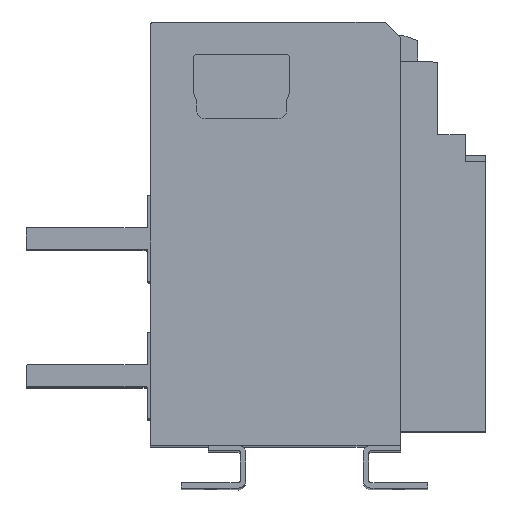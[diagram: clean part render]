
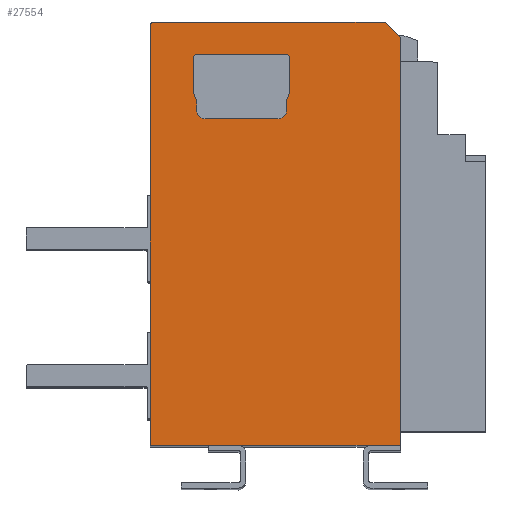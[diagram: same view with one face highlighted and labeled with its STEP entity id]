
A CAD part, top view. The second image highlights one B-rep face of the part: STEP entity #27554.
In plain terms, the highlighted planar face has unit normal (0, 0, 1).
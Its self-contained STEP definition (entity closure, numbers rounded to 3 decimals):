
#515 = CARTESIAN_POINT ( 'NONE',  ( 4501.86, 449.471, 1019. ) ) ;
#942 = ORIENTED_EDGE ( 'NONE', *, *, #33081, .F. ) ;
#1032 = LINE ( 'NONE', #40360, #1578 ) ;
#1041 = ORIENTED_EDGE ( 'NONE', *, *, #16047, .F. ) ;
#1311 = VECTOR ( 'NONE', #17936, 1000. ) ;
#1321 = FACE_BOUND ( 'NONE', #3600, .T. ) ;
#1338 = CIRCLE ( 'NONE', #39062, 8. ) ;
#1494 = ORIENTED_EDGE ( 'NONE', *, *, #33683, .F. ) ;
#1578 = VECTOR ( 'NONE', #40799, 1000. ) ;
#1813 = VERTEX_POINT ( 'NONE', #7879 ) ;
#1895 = DIRECTION ( 'NONE',  ( 1., 0., 0. ) ) ;
#2766 = ORIENTED_EDGE ( 'NONE', *, *, #30683, .F. ) ;
#2844 = DIRECTION ( 'NONE',  ( 1., 0., 0. ) ) ;
#2999 = EDGE_CURVE ( 'NONE', #40916, #27731, #4876, .T. ) ;
#3142 = EDGE_LOOP ( 'NONE', ( #27939, #43408, #34156, #34818, #19981, #13223 ) ) ;
#3359 = DIRECTION ( 'NONE',  ( 0., 0., 1. ) ) ;
#3600 = EDGE_LOOP ( 'NONE', ( #4979, #40343, #28735, #38300, #41222, #1494, #37852, #2766, #1041, #942, #24755, #20595 ) ) ;
#4276 = CARTESIAN_POINT ( 'NONE',  ( 4677.86, 522.971, 1019. ) ) ;
#4876 = LINE ( 'NONE', #29047, #35754 ) ;
#4979 = ORIENTED_EDGE ( 'NONE', *, *, #35897, .F. ) ;
#5197 = CARTESIAN_POINT ( 'NONE',  ( 4585.86, 449.471, 1019. ) ) ;
#5732 = VERTEX_POINT ( 'NONE', #22146 ) ;
#5918 = EDGE_CURVE ( 'NONE', #35176, #22360, #39930, .T. ) ;
#6413 = CARTESIAN_POINT ( 'NONE',  ( 4458.86, 127.971, 1019. ) ) ;
#6463 = CARTESIAN_POINT ( 'NONE',  ( 4458.86, 519.471, 1019. ) ) ;
#7879 = CARTESIAN_POINT ( 'NONE',  ( 4585.86, 449.471, 1019. ) ) ;
#8310 = CARTESIAN_POINT ( 'NONE',  ( 4577.86, 432.471, 1019. ) ) ;
#8639 = DIRECTION ( 'NONE',  ( 0., 1., 0. ) ) ;
#9304 = DIRECTION ( 'NONE',  ( -1., 0., 0. ) ) ;
#9309 = EDGE_CURVE ( 'NONE', #38180, #1813, #43390, .T. ) ;
#9718 = CARTESIAN_POINT ( 'NONE',  ( 4462.36, 519.471, 1019. ) ) ;
#9777 = DIRECTION ( 'NONE',  ( 1., 0., 0. ) ) ;
#10086 = VERTEX_POINT ( 'NONE', #29898 ) ;
#10091 = CARTESIAN_POINT ( 'NONE',  ( 4588.86, 457.471, 1019. ) ) ;
#10291 = CARTESIAN_POINT ( 'NONE',  ( 4585.86, 492.471, 1019. ) ) ;
#10347 = EDGE_CURVE ( 'NONE', #41835, #5732, #16870, .T. ) ;
#10452 = EDGE_CURVE ( 'NONE', #19358, #19878, #25920, .T. ) ;
#11240 = CARTESIAN_POINT ( 'NONE',  ( 4462.36, 522.971, 1019. ) ) ;
#11342 = LINE ( 'NONE', #41903, #14565 ) ;
#12376 = DIRECTION ( 'NONE',  ( 1., 0., 0. ) ) ;
#12538 = CARTESIAN_POINT ( 'NONE',  ( 4501.86, 440.471, 1019. ) ) ;
#12706 = CARTESIAN_POINT ( 'NONE',  ( 4509.86, 432.471, 1019. ) ) ;
#12822 = CARTESIAN_POINT ( 'NONE',  ( 4509.86, 440.471, 1019. ) ) ;
#13223 = ORIENTED_EDGE ( 'NONE', *, *, #15445, .T. ) ;
#13236 = CARTESIAN_POINT ( 'NONE',  ( 4498.86, 489.471, 1019. ) ) ;
#13541 = DIRECTION ( 'NONE',  ( 0., -1., 0. ) ) ;
#13661 = CARTESIAN_POINT ( 'NONE',  ( 4577.86, 440.471, 1019. ) ) ;
#13874 = VERTEX_POINT ( 'NONE', #12706 ) ;
#14565 = VECTOR ( 'NONE', #42194, 1000. ) ;
#15339 = DIRECTION ( 'NONE',  ( 0., 0., 1. ) ) ;
#15390 = LINE ( 'NONE', #10291, #16977 ) ;
#15445 = EDGE_CURVE ( 'NONE', #37136, #41819, #33599, .T. ) ;
#15465 = LINE ( 'NONE', #13236, #29292 ) ;
#16047 = EDGE_CURVE ( 'NONE', #13874, #34111, #1032, .T. ) ;
#16687 = CARTESIAN_POINT ( 'NONE',  ( 4585.86, 440.471, 1019. ) ) ;
#16694 = EDGE_CURVE ( 'NONE', #22360, #19133, #28205, .T. ) ;
#16870 = CIRCLE ( 'NONE', #20460, 3. ) ;
#16977 = VECTOR ( 'NONE', #37786, 1000. ) ;
#17334 = EDGE_CURVE ( 'NONE', #43334, #41835, #15390, .T. ) ;
#17664 = CARTESIAN_POINT ( 'NONE',  ( 4501.86, 449.471, 1019. ) ) ;
#17741 = LINE ( 'NONE', #29128, #30500 ) ;
#17936 = DIRECTION ( 'NONE',  ( 0., 1., 0. ) ) ;
#18702 = CARTESIAN_POINT ( 'NONE',  ( 4501.86, 489.471, 1019. ) ) ;
#18890 = DIRECTION ( 'NONE',  ( -0.707, 0.707, 0. ) ) ;
#19131 = CIRCLE ( 'NONE', #30465, 3. ) ;
#19133 = VERTEX_POINT ( 'NONE', #12538 ) ;
#19358 = VERTEX_POINT ( 'NONE', #4276 ) ;
#19866 = CIRCLE ( 'NONE', #33965, 8. ) ;
#19878 = VERTEX_POINT ( 'NONE', #11240 ) ;
#19908 = DIRECTION ( 'NONE',  ( 1., 0., 0. ) ) ;
#19981 = ORIENTED_EDGE ( 'NONE', *, *, #34760, .T. ) ;
#20039 = DIRECTION ( 'NONE',  ( 0., -1., 0. ) ) ;
#20040 = AXIS2_PLACEMENT_3D ( 'NONE', #9718, #23259, #2844 ) ;
#20460 = AXIS2_PLACEMENT_3D ( 'NONE', #18702, #28680, #42475 ) ;
#20595 = ORIENTED_EDGE ( 'NONE', *, *, #5918, .F. ) ;
#21340 = CARTESIAN_POINT ( 'NONE',  ( 4585.86, 449.471, 1019. ) ) ;
#21572 = CARTESIAN_POINT ( 'NONE',  ( 4458.86, 519.471, 1019. ) ) ;
#22146 = CARTESIAN_POINT ( 'NONE',  ( 4498.86, 489.471, 1019. ) ) ;
#22360 = VERTEX_POINT ( 'NONE', #515 ) ;
#23259 = DIRECTION ( 'NONE',  ( 0., 0., 1. ) ) ;
#23348 = CARTESIAN_POINT ( 'NONE',  ( 4498.86, 457.471, 1019. ) ) ;
#23379 = CARTESIAN_POINT ( 'NONE',  ( 4501.86, 492.471, 1019. ) ) ;
#23445 = CARTESIAN_POINT ( 'NONE',  ( 4585.86, 489.471, 1019. ) ) ;
#24461 = VECTOR ( 'NONE', #41590, 1000. ) ;
#24755 = ORIENTED_EDGE ( 'NONE', *, *, #16694, .F. ) ;
#24849 = LINE ( 'NONE', #41640, #39756 ) ;
#25471 = CARTESIAN_POINT ( 'NONE',  ( 4462.36, 519.471, 1019. ) ) ;
#25920 = LINE ( 'NONE', #25985, #42922 ) ;
#25985 = CARTESIAN_POINT ( 'NONE',  ( 4677.86, 522.971, 1019. ) ) ;
#26170 = AXIS2_PLACEMENT_3D ( 'NONE', #25471, #15339, #1895 ) ;
#27554 = ADVANCED_FACE ( 'NONE', ( #1321, #29579 ), #29172, .T. ) ;
#27731 = VERTEX_POINT ( 'NONE', #41634 ) ;
#27939 = ORIENTED_EDGE ( 'NONE', *, *, #34195, .T. ) ;
#28093 = EDGE_CURVE ( 'NONE', #27731, #43334, #19131, .T. ) ;
#28205 = LINE ( 'NONE', #35350, #37720 ) ;
#28680 = DIRECTION ( 'NONE',  ( 0., 0., 1. ) ) ;
#28735 = ORIENTED_EDGE ( 'NONE', *, *, #17334, .F. ) ;
#29047 = CARTESIAN_POINT ( 'NONE',  ( 4588.86, 457.471, 1019. ) ) ;
#29128 = CARTESIAN_POINT ( 'NONE',  ( 4458.86, 127.971, 1019. ) ) ;
#29172 = PLANE ( 'NONE',  #26170 ) ;
#29292 = VECTOR ( 'NONE', #13541, 1000. ) ;
#29579 = FACE_OUTER_BOUND ( 'NONE', #3142, .T. ) ;
#29898 = CARTESIAN_POINT ( 'NONE',  ( 4691.86, 127.971, 1019. ) ) ;
#30465 = AXIS2_PLACEMENT_3D ( 'NONE', #23445, #43543, #19908 ) ;
#30500 = VECTOR ( 'NONE', #9777, 1000. ) ;
#30683 = EDGE_CURVE ( 'NONE', #34111, #38180, #1338, .T. ) ;
#31734 = CARTESIAN_POINT ( 'NONE',  ( 4691.86, 508.971, 1019. ) ) ;
#32034 = CIRCLE ( 'NONE', #20040, 3.5 ) ;
#32568 = EDGE_CURVE ( 'NONE', #10086, #37941, #11342, .T. ) ;
#32909 = DIRECTION ( 'NONE',  ( 0., 0., 1. ) ) ;
#33081 = EDGE_CURVE ( 'NONE', #19133, #13874, #19866, .T. ) ;
#33182 = VECTOR ( 'NONE', #35990, 1000. ) ;
#33599 = LINE ( 'NONE', #6463, #39445 ) ;
#33683 = EDGE_CURVE ( 'NONE', #1813, #40916, #42722, .T. ) ;
#33965 = AXIS2_PLACEMENT_3D ( 'NONE', #12822, #32909, #12376 ) ;
#34111 = VERTEX_POINT ( 'NONE', #8310 ) ;
#34156 = ORIENTED_EDGE ( 'NONE', *, *, #37307, .T. ) ;
#34195 = EDGE_CURVE ( 'NONE', #41819, #10086, #17741, .T. ) ;
#34760 = EDGE_CURVE ( 'NONE', #19878, #37136, #32034, .T. ) ;
#34818 = ORIENTED_EDGE ( 'NONE', *, *, #10452, .T. ) ;
#35176 = VERTEX_POINT ( 'NONE', #23348 ) ;
#35350 = CARTESIAN_POINT ( 'NONE',  ( 4501.86, 449.471, 1019. ) ) ;
#35498 = DIRECTION ( 'NONE',  ( 0., -1., 0. ) ) ;
#35754 = VECTOR ( 'NONE', #8639, 1000. ) ;
#35897 = EDGE_CURVE ( 'NONE', #5732, #35176, #15465, .T. ) ;
#35990 = DIRECTION ( 'NONE',  ( 0.351, 0.936, 0. ) ) ;
#36867 = DIRECTION ( 'NONE',  ( 1., 0., 0. ) ) ;
#37136 = VERTEX_POINT ( 'NONE', #21572 ) ;
#37307 = EDGE_CURVE ( 'NONE', #37941, #19358, #24849, .T. ) ;
#37720 = VECTOR ( 'NONE', #35498, 1000. ) ;
#37786 = DIRECTION ( 'NONE',  ( -1., 0., 0. ) ) ;
#37802 = CARTESIAN_POINT ( 'NONE',  ( 4585.86, 492.471, 1019. ) ) ;
#37852 = ORIENTED_EDGE ( 'NONE', *, *, #9309, .F. ) ;
#37941 = VERTEX_POINT ( 'NONE', #31734 ) ;
#38180 = VERTEX_POINT ( 'NONE', #16687 ) ;
#38300 = ORIENTED_EDGE ( 'NONE', *, *, #28093, .F. ) ;
#39062 = AXIS2_PLACEMENT_3D ( 'NONE', #13661, #3359, #36867 ) ;
#39445 = VECTOR ( 'NONE', #20039, 1000. ) ;
#39756 = VECTOR ( 'NONE', #18890, 1000. ) ;
#39930 = LINE ( 'NONE', #17664, #24461 ) ;
#40343 = ORIENTED_EDGE ( 'NONE', *, *, #10347, .F. ) ;
#40360 = CARTESIAN_POINT ( 'NONE',  ( 4509.86, 432.471, 1019. ) ) ;
#40799 = DIRECTION ( 'NONE',  ( 1., 0., 0. ) ) ;
#40916 = VERTEX_POINT ( 'NONE', #10091 ) ;
#41222 = ORIENTED_EDGE ( 'NONE', *, *, #2999, .F. ) ;
#41590 = DIRECTION ( 'NONE',  ( 0.351, -0.936, 0. ) ) ;
#41634 = CARTESIAN_POINT ( 'NONE',  ( 4588.86, 489.471, 1019. ) ) ;
#41640 = CARTESIAN_POINT ( 'NONE',  ( 4691.86, 508.971, 1019. ) ) ;
#41819 = VERTEX_POINT ( 'NONE', #6413 ) ;
#41835 = VERTEX_POINT ( 'NONE', #23379 ) ;
#41903 = CARTESIAN_POINT ( 'NONE',  ( 4691.86, 127.971, 1019. ) ) ;
#42194 = DIRECTION ( 'NONE',  ( 0., 1., 0. ) ) ;
#42475 = DIRECTION ( 'NONE',  ( 1., 0., 0. ) ) ;
#42722 = LINE ( 'NONE', #5197, #33182 ) ;
#42922 = VECTOR ( 'NONE', #9304, 1000. ) ;
#43334 = VERTEX_POINT ( 'NONE', #37802 ) ;
#43390 = LINE ( 'NONE', #21340, #1311 ) ;
#43408 = ORIENTED_EDGE ( 'NONE', *, *, #32568, .T. ) ;
#43543 = DIRECTION ( 'NONE',  ( 0., 0., 1. ) ) ;
